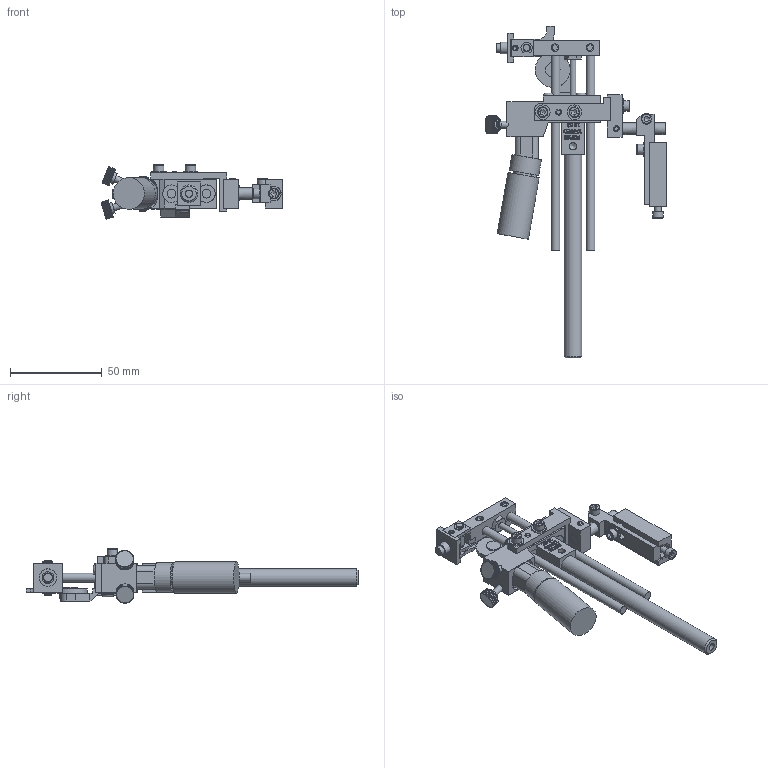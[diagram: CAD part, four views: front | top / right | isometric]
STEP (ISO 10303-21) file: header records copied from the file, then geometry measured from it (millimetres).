
FILE_DESCRIPTION((''),'2;1');
FILE_NAME('C:\Documents and Settings\Ron\My Documents\Inventor\Sprinter Drawing\Machines in Inventor\Model 22\Dot\3-sixth\Ext Str\E2\Brkt\90\Model 22 ES 2 3-16 dot 90 deg w brkt.stp','2009-01-22T11:12:02',('Ron'),(''),'Autodesk Inventor 2008','Autodesk Inventor 2008','');
FILE_SCHEMA(('AUTOMOTIVE_DESIGN { 1 0 10303 214 1 1 1 1 }'));
Length unit declared in the file: inch
Products named in the file (1): Model 22 ES 2 3-16 dot 90 deg w brkt
Bounding box: 99.17 x 181.01 x 29.56 mm (x, y, z)
Volume: 62112.4 mm3; surface area: 37104.2 mm2
Topology: 34 solids, 34 shells, 4744 faces, 13134 edges, 8723 vertices
Faces by surface type: plane 2901, bspline 1289, cylinder 484, cone 56, torus 14
Full cylindrical faces by diameter (mm): 2.845 x3, 2.946 x2, 3.175 x4, 3.505 x7, 3.556 x2, 3.658 x2, 3.876 x1, 3.962 x9, 4.064 x1, 4.166 x3, 4.648 x2, 4.699 x1, 4.75 x1, 4.763 x2, 4.775 x3, 4.788 x1, 5.41 x2, 5.74 x6, 6.096 x1, 6.325 x2, 6.35 x4, 6.477 x1, 6.655 x1, 7.925 x4, 7.938 x1, 8.128 x1, 9.462 x1, 9.525 x1, 10.922 x1, 11.938 x1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
Entity records: 165914 total; most frequent: CARTESIAN_POINT 49169, ORIENTED_EDGE 25738, DIRECTION 18454, EDGE_CURVE 12869, VECTOR 9052, LINE 9052, VERTEX_POINT 8637, EDGE_LOOP 5270
